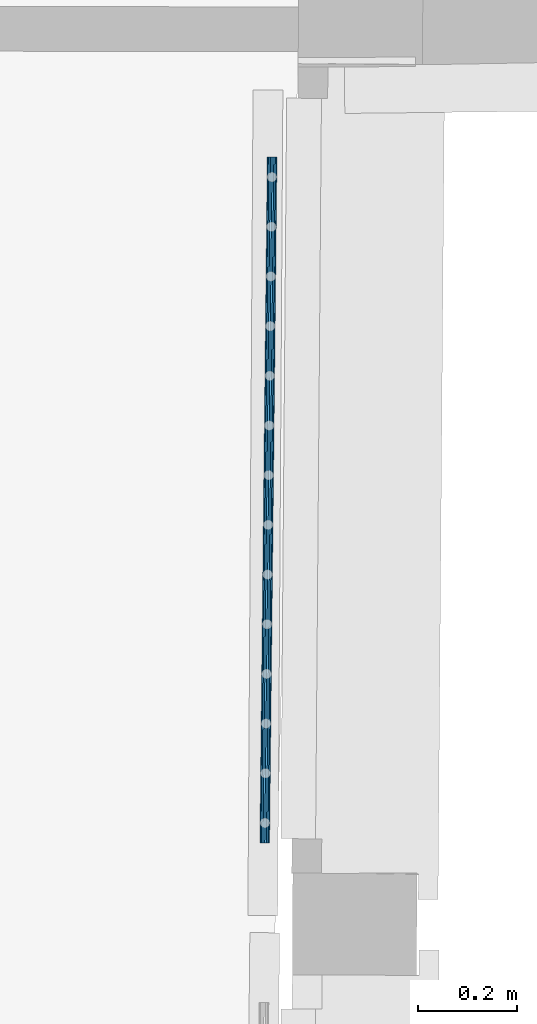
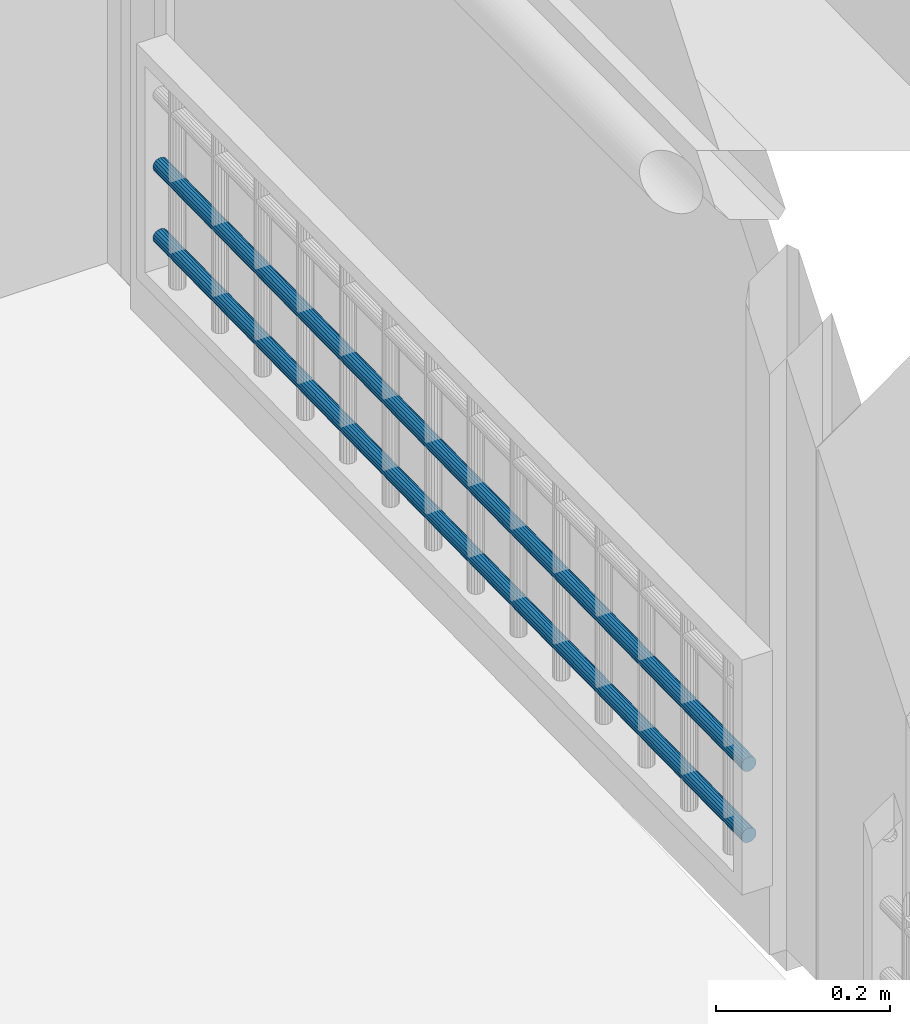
# One storey, part 28 of 97: 2 members, 1 element without a shape of its own.
"""IFC2X3 building model written with IfcOpenShell, lengths in centimetres."""

from ifc_helpers import new_model, entity, si_unit, converted_unit, direction, frame, origin, origin_with_axes, place, context, subcontext, project, spatial, faceted_brep, material, type_object, element, aggregate, save


model = new_model("IFC2X3")

# Units and contexts
model_context = context("Model", 3, precision=0.0001, world=origin(), true_north=direction((0.225632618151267, 0.974212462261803, 0.0)))
body_context = subcontext(model_context, "Body", "Model", "MODEL_VIEW")
ifc_project = project(units=[si_unit("LENGTHUNIT", "METRE", prefix="CENTI"), si_unit("AREAUNIT", "SQUARE_METRE", prefix="CENTI"), si_unit("VOLUMEUNIT", "CUBIC_METRE", prefix="CENTI"), converted_unit("PLANEANGLEUNIT", "DEGREE", entity("IfcRatioMeasure", 0.0174532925), si_unit("PLANEANGLEUNIT", "RADIAN"), dimensions=[0, 0, 0, 0, 0, 0, 0])], contexts=[model_context])

# Site, building, storey
site_placement = place(None, origin_with_axes())
site = spatial("IfcSite", under=ifc_project, at=site_placement, Name="Default Site", CompositionType="ELEMENT")
building_placement = place(site_placement, origin_with_axes())
building = spatial("IfcBuilding", under=site, at=building_placement, Name="Default Building", CompositionType="ELEMENT")
storey_placement = place(building_placement, origin_with_axes())
storey = spatial("IfcBuildingStorey", under=building, at=storey_placement, Name="Rez-de-chaussée", CompositionType="ELEMENT", Elevation=0.0)

# Assembly, members
building_element_proxy_type = type_object("IfcBuildingElementProxyType", Name="Type Object", PredefinedType="NOTDEFINED")
assembly_placement = place(storey_placement, frame((1067.41070761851, 134.057314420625, 12.0), z_axis=(0.0, 0.0, 1.0), x_axis=(-0.0108104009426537, -0.999941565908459, 0.0)))
assembly = element("IfcElementAssembly", 1, at=assembly_placement, inside=storey, type_object=building_element_proxy_type, Name="Panneau 1702033", ObjectType="Precast panel", PredefinedType="USERDEFINED")
ifc_material = material(Name="Aluminium satiné")
member_1_placement = place(assembly_placement, frame((139.999997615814, 0.342020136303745, 15.5603080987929), z_axis=(1.0, -2.29764124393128e-14, -1.32558894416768e-14), x_axis=(-2.65273913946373e-14, -0.866026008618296, -0.499998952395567)))
member_1 = element("IfcMember", 2, at=member_1_placement, material=ifc_material, Name="4294967095", context=body_context, shape_type="Brep", body=[
    faceted_brep([(-8.59035065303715e-13, 3.19189119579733e-13, 2.22044604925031e-14), (-0.347296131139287, 2.99760216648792e-13, 1.2997022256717e-14), (-0.673647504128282, -0.118782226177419, 4.3448668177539e-15), (-0.939691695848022, -0.342020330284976, -2.70843796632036e-15), (-1.11333977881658, -0.642788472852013, -7.31215754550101e-15), (-1.17364672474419, -0.984808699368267, -8.9110019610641e-15), (-1.11333863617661, -1.32682824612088, -7.31212725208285e-15), (-0.939690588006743, -1.6275963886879, -2.70840859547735e-15), (-0.673645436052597, -1.85083308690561, 4.34492164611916e-15), (-0.347293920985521, -1.96961580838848, 1.29970808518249e-14), (2.9552094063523e-06, -1.96961451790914, 2.22045388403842e-14), (0.3263543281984, -1.85083229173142, 3.08566942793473e-14), (0.592398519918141, -1.62759418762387, 3.79099990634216e-14), (0.7660466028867, -1.32682604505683, 4.25137186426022e-14), (0.826353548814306, -0.984805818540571, 4.41125630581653e-14), (0.766045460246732, -0.64278627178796, 4.25136883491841e-14), (0.592396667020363, -0.34201941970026, 3.79099499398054e-14), (0.326352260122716, -0.118781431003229, 3.0856639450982e-14), (0.326352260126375, -0.118781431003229, -137.999997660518), (0.592396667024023, -0.34201941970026, -137.999997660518), (0.766045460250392, -0.64278627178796, -137.999997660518), (0.826353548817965, -0.984805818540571, -137.999997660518), (0.766046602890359, -1.32682604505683, -137.999997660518), (0.592398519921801, -1.62759418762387, -137.999997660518), (0.32635432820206, -1.85083229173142, -137.999997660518), (2.95521306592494e-06, -1.96961451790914, -137.999997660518), (-0.347293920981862, -1.96961580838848, -137.999997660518), (-0.673645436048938, -1.85083308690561, -137.999997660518), (-0.939690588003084, -1.6275963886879, -137.999997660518), (-1.11333863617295, -1.32682824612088, -137.999997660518), (-1.17364672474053, -0.984808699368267, -137.999997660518), (-1.11333977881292, -0.642788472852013, -137.999997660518), (-0.939691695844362, -0.342020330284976, -137.999997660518), (-0.673647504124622, -0.118782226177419, -137.999997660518), (-0.347296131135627, 2.99760216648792e-13, -137.999997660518), (2.80053757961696e-12, 3.19189119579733e-13, -137.999997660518), (0.326352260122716, -0.118781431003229, 2.22044604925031e-14), (0.592397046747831, -0.342018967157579, 2.22044705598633e-14), (0.59239704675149, -0.342018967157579, -137.999997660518), (0.592396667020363, -0.34201941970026, 2.22044604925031e-14), (0.766045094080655, -0.64278648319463, 4.44089112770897e-14), (0.766045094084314, -0.64278648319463, -137.999997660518), (0.592396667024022, -0.34201941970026, -137.999997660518), (0.766045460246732, -0.64278627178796, 4.44089209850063e-14), (0.826353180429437, -0.984805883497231, 2.22044507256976e-14), (0.826353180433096, -0.984805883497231, -137.999997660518), (0.766045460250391, -0.64278627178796, -137.999997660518), (0.826353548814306, -0.984805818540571, 2.22044604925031e-14), (0.766046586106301, -1.32682604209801, 2.22044600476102e-14), (0.76604658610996, -1.32682604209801, -137.999997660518), (0.7660466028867, -1.32682604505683, 2.22044604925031e-14), (0.592398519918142, -1.62759418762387, 2.22044604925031e-14), (0.592398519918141, -1.62759418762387, 2.22044604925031e-14), (0.326354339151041, -1.85083230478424, 2.22044607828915e-14), (0.3263543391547, -1.85083230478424, -137.999997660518), (0.592398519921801, -1.62759418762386, -137.999997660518), (0.3263543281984, -1.85083229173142, 2.22044604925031e-14), (3.08314857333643e-06, -1.96961486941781, 2.22044638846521e-14), (3.08315223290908e-06, -1.96961486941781, -137.999997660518), (2.9552094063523e-06, -1.96961451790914, 2.22044604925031e-14), (-0.347293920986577, -1.96961494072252, -4.01871473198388e-25), (-0.347293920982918, -1.96961494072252, -137.999997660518), (-0.347293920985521, -1.96961580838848, 0.0), (-0.673645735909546, -1.85083391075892, -7.94962658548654e-21), (-0.673645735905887, -1.85083391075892, -137.999997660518), (-0.673645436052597, -1.85083308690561, 0.0), (-0.939690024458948, -1.62759571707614, 1.49408170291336e-20), (-0.939690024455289, -1.62759571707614, -137.999997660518), (-0.939690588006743, -1.6275963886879, 0.0), (-1.11333938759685, -1.32682867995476, -2.22044804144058e-14), (-1.11333938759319, -1.32682867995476, -137.999997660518), (-1.11333863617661, -1.32682824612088, -2.22044604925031e-14), (-1.17364635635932, -0.984808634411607, -2.22044507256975e-14), (-1.17364635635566, -0.984808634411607, -137.999997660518), (-1.17364672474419, -0.984808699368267, -2.22044604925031e-14), (-1.11333976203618, -0.642788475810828, -2.22044600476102e-14), (-1.11333976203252, -0.642788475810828, -137.999997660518), (-1.11333977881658, -0.642788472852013, -2.22044604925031e-14), (-0.939691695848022, -0.342020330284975, -2.22044604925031e-14), (-0.939691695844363, -0.342020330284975, -137.999997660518), (-1.11333977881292, -0.642788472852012, -137.999997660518), (-0.939691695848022, -0.342020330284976, -2.22044604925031e-14), (-0.673647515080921, -0.118782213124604, -2.22044607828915e-14), (-0.673647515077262, -0.118782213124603, -137.999997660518), (-0.939691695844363, -0.342020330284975, -137.999997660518), (-0.673647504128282, -0.118782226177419, -2.22044604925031e-14), (-0.347296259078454, 3.51508974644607e-07, -3.39214895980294e-21), (-0.347296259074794, 3.51508974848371e-07, -137.999997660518), (-0.347296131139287, 2.99760216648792e-13, 0.0), (-1.37378419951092e-12, 4.22812777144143e-07, 2.22044604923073e-14), (2.28578844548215e-12, 4.22812777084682e-07, -137.999997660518), (-0.347296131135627, 2.99700755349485e-13, -137.999997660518), (0.326352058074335, -0.11878198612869, 2.22044551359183e-14), (0.326352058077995, -0.11878198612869, -137.999997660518), (2.80042061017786e-12, 3.18867747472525e-13, -137.999997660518)], [[[0, 1, 2, 3, 4, 5, 6, 7, 8, 9, 10, 11, 12, 13, 14, 15, 16, 17]], [[18, 19, 20, 21, 22, 23, 24, 25, 26, 27, 28, 29, 30, 31, 32, 33, 34, 35]], [[36, 37, 38, 18]], [[39, 40, 41, 42]], [[43, 44, 45, 46]], [[47, 48, 49, 21]], [[50, 51, 23, 22]], [[52, 53, 54, 55]], [[56, 57, 58, 24]], [[59, 60, 61, 25]], [[62, 63, 64, 26]], [[65, 66, 67, 27]], [[68, 69, 70, 28]], [[71, 72, 73, 29]], [[74, 75, 76, 30]], [[77, 78, 79, 80]], [[81, 82, 83, 84]], [[85, 86, 87, 33]], [[88, 89, 90, 91]], [[0, 92, 93, 94]]]),
])
member_2_placement = place(assembly_placement, frame((139.999997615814, 0.342020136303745, 5.56030720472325), z_axis=(1.0, -2.29764124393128e-14, -1.32550220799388e-14), x_axis=(-2.65273913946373e-14, -0.866025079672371, -0.500000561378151)))
member_2 = element("IfcMember", 3, at=member_2_placement, material=ifc_material, Name="4294967094", context=body_context, shape_type="Brep", body=[
    faceted_brep([(-1.02036434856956e-12, 3.67761376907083e-13, 2.22044604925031e-14), (-0.347296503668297, 3.47638584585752e-13, 1.29976148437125e-14), (-0.673648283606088, -0.118781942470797, 4.3461177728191e-15), (-0.93969307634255, -0.342019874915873, -2.70654780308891e-15), (-1.11334134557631, -0.642787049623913, -7.30971021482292e-15), (-1.17364892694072, -0.984807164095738, -8.90817020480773e-15), (-1.11334184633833, -1.32682746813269, -7.30913017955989e-15), (-0.93969361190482, -1.62759464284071, -2.70544694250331e-15), (-0.673649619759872, -1.85083312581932, 4.34758466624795e-15), (-0.347297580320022, -1.96961516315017, 1.29992946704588e-14), (-1.4491821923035e-06, -1.96961580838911, 2.2206130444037e-14), (0.326350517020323, -1.85083354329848, 3.08576324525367e-14), (0.59239512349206, -1.62759593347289, 3.79102930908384e-14), (0.766043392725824, -1.32682875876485, 4.25134555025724e-14), (0.826351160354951, -0.984808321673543, 4.41119204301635e-14), (0.766043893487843, -0.642788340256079, 4.25128754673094e-14), (0.592396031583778, -0.342020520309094, 3.79092021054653e-14), (0.326351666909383, -0.118782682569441, 3.08561606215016e-14), (0.326351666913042, -0.118782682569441, -137.999997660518), (0.592396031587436, -0.342020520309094, -137.999997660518), (0.766043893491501, -0.642788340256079, -137.999997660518), (0.82635116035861, -0.984808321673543, -137.999997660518), (0.766043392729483, -1.32682875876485, -137.999997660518), (0.592395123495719, -1.62759593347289, -137.999997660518), (0.326350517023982, -1.85083354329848, -137.999997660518), (-1.44917853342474e-06, -1.96961580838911, -137.999997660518), (-0.347297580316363, -1.96961516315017, -137.999997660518), (-0.673649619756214, -1.85083312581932, -137.999997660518), (-0.939693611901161, -1.62759464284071, -137.999997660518), (-1.11334184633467, -1.32682746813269, -137.999997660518), (-1.17364892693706, -0.984807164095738, -137.999997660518), (-1.11334134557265, -0.642787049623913, -137.999997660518), (-0.939693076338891, -0.342019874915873, -137.999997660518), (-0.67364828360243, -0.118781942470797, -137.999997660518), (-0.347296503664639, 3.47638584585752e-13, -137.999997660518), (2.63782051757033e-12, 3.67761376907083e-13, -137.999997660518), (0.326351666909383, -0.118782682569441, 2.22044604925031e-14), (0.59239593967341, -0.34202062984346, 2.22044580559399e-14), (0.592395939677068, -0.34202062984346, -137.999997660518), (0.592396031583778, -0.342020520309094, 2.22044604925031e-14), (0.76604408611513, -0.642788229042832, 4.44089260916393e-14), (0.766044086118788, -0.642788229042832, -137.999997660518), (0.592396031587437, -0.342020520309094, -137.999997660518), (0.766043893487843, -0.642788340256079, 4.44089209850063e-14), (0.826351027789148, -0.984808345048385, 2.22044569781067e-14), (0.826351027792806, -0.984808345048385, -137.999997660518), (0.826351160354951, -0.984808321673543, 2.22044604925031e-14), (0.766043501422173, -1.32682877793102, 2.22044633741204e-14), (0.766043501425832, -1.32682877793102, -137.999997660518), (0.766043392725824, -1.32682875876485, 2.22044604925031e-14), (0.59239512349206, -1.62759593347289, 2.22044604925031e-14), (0.592395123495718, -1.62759593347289, -137.999997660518), (0.32635052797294, -1.85083355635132, 2.22044607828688e-14), (0.326350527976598, -1.85083355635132, -137.999997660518), (0.326350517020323, -1.85083354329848, 2.22044604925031e-14), (-1.48504164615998e-06, -1.96961570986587, 2.220445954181e-14), (-1.48503798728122e-06, -1.96961570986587, -137.999997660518), (-1.4491821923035e-06, -1.96961580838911, 2.22044604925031e-14), (-0.347297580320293, -1.96961558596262, 1.46698740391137e-25), (-0.347297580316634, -1.96961558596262, -137.999997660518), (-0.347297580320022, -1.96961516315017, 0.0), (-0.673649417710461, -1.85083257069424, 5.35625813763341e-21), (-0.673649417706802, -1.85083257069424, -137.999997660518), (-0.673649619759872, -1.85083312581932, 0.0), (-0.939693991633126, -1.62759509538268, -1.00666775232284e-20), (-0.939693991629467, -1.62759509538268, -137.999997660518), (-0.93969361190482, -1.62759464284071, 0.0), (-1.11334148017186, -1.3268272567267, -2.22044507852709e-14), (-1.11334148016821, -1.3268272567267, -137.999997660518), (-1.11334184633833, -1.32682746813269, -2.22044604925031e-14), (-1.1736490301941, -0.984807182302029, -2.22044632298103e-14), (-1.17364903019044, -0.984807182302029, -137.999997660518), (-1.17364892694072, -0.984807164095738, -2.22044604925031e-14), (-1.11334132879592, -0.64278705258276, -2.2204460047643e-14), (-1.11334132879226, -0.64278705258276, -137.999997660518), (-1.11334134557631, -0.642787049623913, -2.22044604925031e-14), (-0.93969307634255, -0.342019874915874, -2.22044604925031e-14), (-1.11334134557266, -0.642787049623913, -137.999997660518), (-0.93969307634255, -0.342019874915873, -2.22044604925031e-14), (-0.673648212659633, -0.118782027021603, -2.22044586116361e-14), (-0.673648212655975, -0.118782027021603, -137.999997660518), (-0.673648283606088, -0.118781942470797, -2.22044604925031e-14), (-0.347296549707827, 1.26493181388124e-07, -1.22058366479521e-21), (-0.347296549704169, 1.26493181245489e-07, -137.999997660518), (-0.347296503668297, 3.47638584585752e-13, 0.0), (-1.16281799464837e-12, -2.22426379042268e-07, 2.22044604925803e-14), (2.49536687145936e-12, -2.22426379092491e-07, -137.999997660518), (-0.347296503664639, 3.47588361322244e-13, -137.999997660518), (0.326351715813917, -0.118782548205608, 2.2204461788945e-14), (0.326351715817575, -0.118782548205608, -137.999997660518), (2.63783760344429e-12, 3.67808319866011e-13, -137.999997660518)], [[[0, 1, 2, 3, 4, 5, 6, 7, 8, 9, 10, 11, 12, 13, 14, 15, 16, 17]], [[18, 19, 20, 21, 22, 23, 24, 25, 26, 27, 28, 29, 30, 31, 32, 33, 34, 35]], [[36, 37, 38, 18]], [[39, 40, 41, 42]], [[43, 44, 45, 20]], [[46, 47, 48, 21]], [[49, 50, 51, 22]], [[50, 52, 53, 23]], [[54, 55, 56, 24]], [[57, 58, 59, 25]], [[60, 61, 62, 26]], [[63, 64, 65, 27]], [[66, 67, 68, 28]], [[69, 70, 71, 29]], [[72, 73, 74, 30]], [[75, 76, 32, 77]], [[78, 79, 80, 32]], [[81, 82, 83, 33]], [[84, 85, 86, 87]], [[0, 88, 89, 90]]]),
])
aggregate(assembly, [member_1, member_2])

save(model, "model.ifc")
